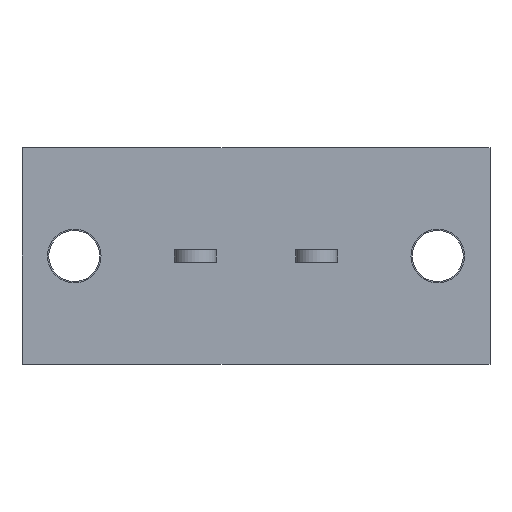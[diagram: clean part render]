
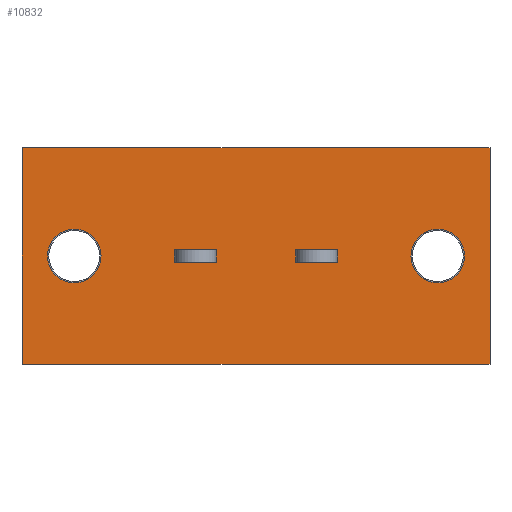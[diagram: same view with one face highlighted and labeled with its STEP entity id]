
A CAD part, front view. The second image highlights one B-rep face of the part: STEP entity #10832.
In plain terms, the highlighted planar face has unit normal (0, -1, 0).
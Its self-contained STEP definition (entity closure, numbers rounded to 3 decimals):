
#555=CIRCLE('',#11202,2.1);
#623=CIRCLE('',#11518,2.1);
#684=VERTEX_POINT('',#13929);
#685=VERTEX_POINT('',#13930);
#689=VERTEX_POINT('',#13940);
#700=VERTEX_POINT('',#13974);
#794=VERTEX_POINT('',#14251);
#1125=VERTEX_POINT('',#15723);
#1126=VERTEX_POINT('',#15725);
#1170=VERTEX_POINT('',#15913);
#1171=VERTEX_POINT('',#15914);
#1175=VERTEX_POINT('',#15924);
#1202=VERTEX_POINT('',#15991);
#1284=VERTEX_POINT('',#16293);
#1291=VERTEX_POINT('',#16309);
#1292=VERTEX_POINT('',#16311);
#1776=VECTOR('',#11790,1.);
#1780=VECTOR('',#11797,1.);
#1790=VECTOR('',#11829,1.);
#1793=VECTOR('',#11841,1.);
#2284=VECTOR('',#12572,1.);
#2321=VECTOR('',#12720,1.);
#2325=VECTOR('',#12727,1.);
#2349=VECTOR('',#12778,1.);
#2352=VECTOR('',#12790,1.);
#2429=VECTOR('',#13018,1.);
#2437=VECTOR('',#13029,1.);
#2438=VECTOR('',#13030,1.);
#2998=LINE('',#13928,#1776);
#3002=LINE('',#13939,#1780);
#3012=LINE('',#13973,#1790);
#3015=LINE('',#13984,#1793);
#3506=LINE('',#15724,#2284);
#3543=LINE('',#15912,#2321);
#3547=LINE('',#15923,#2325);
#3571=LINE('',#15990,#2349);
#3574=LINE('',#16001,#2352);
#3651=LINE('',#16292,#2429);
#3659=LINE('',#16310,#2437);
#3660=LINE('',#16312,#2438);
#4222=EDGE_CURVE('',#684,#685,#2998,.T.);
#4227=EDGE_CURVE('',#689,#684,#3002,.T.);
#4244=EDGE_CURVE('',#685,#700,#3012,.T.);
#4249=EDGE_CURVE('',#700,#689,#3015,.T.);
#4381=EDGE_CURVE('',#794,#794,#555,.T.);
#4875=EDGE_CURVE('',#1125,#1126,#3506,.T.);
#4949=EDGE_CURVE('',#1170,#1171,#3543,.T.);
#4954=EDGE_CURVE('',#1175,#1170,#3547,.T.);
#4987=EDGE_CURVE('',#1171,#1202,#3571,.T.);
#4992=EDGE_CURVE('',#1202,#1175,#3574,.T.);
#5118=EDGE_CURVE('',#1284,#1126,#3651,.T.);
#5126=EDGE_CURVE('',#1291,#1291,#623,.T.);
#5127=EDGE_CURVE('',#1292,#1125,#3659,.T.);
#5128=EDGE_CURVE('',#1284,#1292,#3660,.T.);
#7627=ORIENTED_EDGE('',*,*,#4227,.T.);
#7628=ORIENTED_EDGE('',*,*,#4222,.T.);
#7629=ORIENTED_EDGE('',*,*,#4244,.T.);
#7630=ORIENTED_EDGE('',*,*,#4249,.T.);
#7631=ORIENTED_EDGE('',*,*,#4381,.T.);
#7632=ORIENTED_EDGE('',*,*,#5126,.T.);
#7633=ORIENTED_EDGE('',*,*,#4954,.T.);
#7634=ORIENTED_EDGE('',*,*,#4949,.T.);
#7635=ORIENTED_EDGE('',*,*,#4987,.T.);
#7636=ORIENTED_EDGE('',*,*,#4992,.T.);
#7637=ORIENTED_EDGE('',*,*,#5118,.T.);
#7638=ORIENTED_EDGE('',*,*,#4875,.F.);
#7639=ORIENTED_EDGE('',*,*,#5127,.F.);
#7640=ORIENTED_EDGE('',*,*,#5128,.F.);
#9486=EDGE_LOOP('',(#7627,#7628,#7629,#7630));
#9487=EDGE_LOOP('',(#7631));
#9488=EDGE_LOOP('',(#7632));
#9489=EDGE_LOOP('',(#7633,#7634,#7635,#7636));
#9490=EDGE_LOOP('',(#7637,#7638,#7639,#7640));
#10182=FACE_BOUND('',#9486,.T.);
#10183=FACE_BOUND('',#9487,.T.);
#10184=FACE_BOUND('',#9488,.T.);
#10185=FACE_BOUND('',#9489,.T.);
#10186=FACE_BOUND('',#9490,.T.);
#10832=ADVANCED_FACE('',(#10182,#10183,#10184,#10185,#10186),#18439,.T.);
#11202=AXIS2_PLACEMENT_3D('',#14250,#12052,#12053);
#11517=AXIS2_PLACEMENT_3D('',#16307,#13026,$);
#11518=AXIS2_PLACEMENT_3D('',#16308,#13027,#13028);
#11790=DIRECTION('',(0.,0.,1.));
#11797=DIRECTION('',(-1.,0.,0.));
#11829=DIRECTION('',(1.,0.,0.));
#11841=DIRECTION('',(0.,0.,-1.));
#12052=DIRECTION('',(0.,1.,0.));
#12053=DIRECTION('',(-2.1,0.,0.));
#12572=DIRECTION('',(0.,0.,-1.));
#12720=DIRECTION('',(0.,0.,1.));
#12727=DIRECTION('',(-1.,0.,0.));
#12778=DIRECTION('',(1.,0.,0.));
#12790=DIRECTION('',(0.,0.,-1.));
#13018=DIRECTION('',(1.,0.,0.));
#13026=DIRECTION('',(0.,-1.,0.));
#13027=DIRECTION('',(0.,1.,0.));
#13028=DIRECTION('',(2.1,0.,0.));
#13029=DIRECTION('',(1.,0.,0.));
#13030=DIRECTION('',(0.,0.,1.));
#13928=CARTESIAN_POINT('',(3.8,0.,0.));
#13929=CARTESIAN_POINT('',(3.8,0.,-0.5));
#13930=CARTESIAN_POINT('',(3.8,0.,0.5));
#13939=CARTESIAN_POINT('',(7.475,0.,-0.5));
#13940=CARTESIAN_POINT('',(7.1,0.,-0.5));
#13973=CARTESIAN_POINT('',(7.475,0.,0.5));
#13974=CARTESIAN_POINT('',(7.1,0.,0.5));
#13984=CARTESIAN_POINT('',(7.1,0.,0.));
#14250=CARTESIAN_POINT('',(24.45,0.,0.));
#14251=CARTESIAN_POINT('',(26.55,0.,0.));
#15723=CARTESIAN_POINT('',(28.55,0.,8.5));
#15724=CARTESIAN_POINT('',(28.55,0.,8.5));
#15725=CARTESIAN_POINT('',(28.55,0.,-8.5));
#15912=CARTESIAN_POINT('',(13.3,0.,0.));
#15913=CARTESIAN_POINT('',(13.3,0.,-0.5));
#15914=CARTESIAN_POINT('',(13.3,0.,0.5));
#15923=CARTESIAN_POINT('',(12.225,0.,-0.5));
#15924=CARTESIAN_POINT('',(16.6,0.,-0.5));
#15990=CARTESIAN_POINT('',(12.225,0.,0.5));
#15991=CARTESIAN_POINT('',(16.6,0.,0.5));
#16001=CARTESIAN_POINT('',(16.6,0.,0.));
#16292=CARTESIAN_POINT('',(-8.15,0.,-8.5));
#16293=CARTESIAN_POINT('',(-8.15,0.,-8.5));
#16307=CARTESIAN_POINT('',(9.5,0.,0.));
#16308=CARTESIAN_POINT('',(-4.05,0.,0.));
#16309=CARTESIAN_POINT('',(-6.15,0.,0.));
#16310=CARTESIAN_POINT('',(-8.15,0.,8.5));
#16311=CARTESIAN_POINT('',(-8.15,0.,8.5));
#16312=CARTESIAN_POINT('',(-8.15,0.,-8.5));
#18439=PLANE('',#11517);
